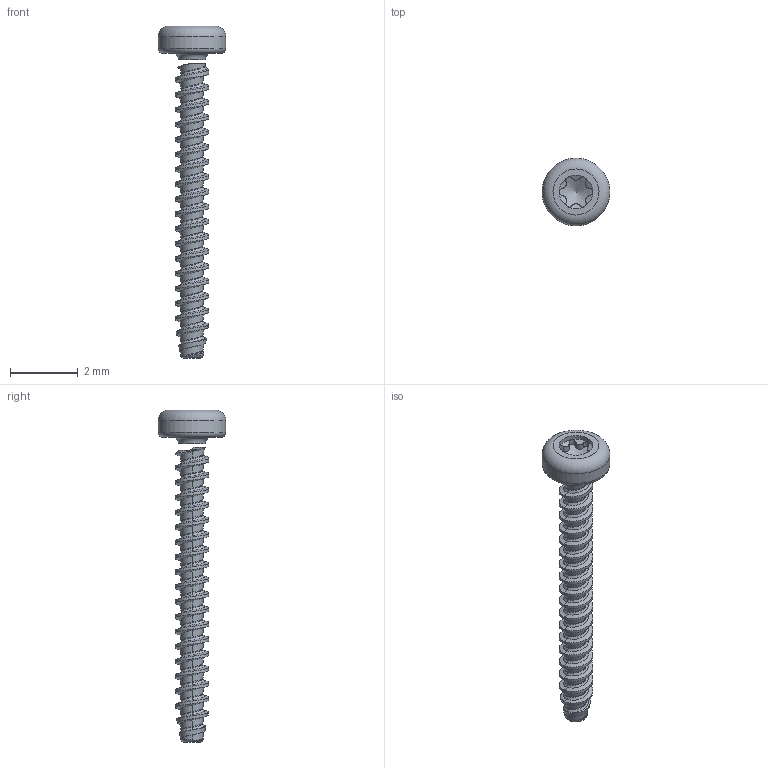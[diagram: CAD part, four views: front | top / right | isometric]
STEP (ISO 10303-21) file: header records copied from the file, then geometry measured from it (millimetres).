
FILE_DESCRIPTION(/* description */ (''),/* implementation_level */ '2;1');
FILE_NAME(/* name */ 'KN6039-STSplus-10x9-T2.step',/* time_stamp */ '2017-10-11T10:34:57+02:00',/* author */ (''),/* organization */ (''),/* preprocessor_version */ 'ST-DEVELOPER v16',/* originating_system */ 'SIEMENS PLM Software NX 10.0',/* authorisation */ '');
FILE_SCHEMA (('AUTOMOTIVE_DESIGN { 1 0 10303 214 3 1 1 1 }'));
Length unit declared in the file: millimetre
Products named in the file (1): KN6039-STSplus-10x9-T2
Bounding box: 2 x 2 x 9.8 mm (x, y, z)
Volume: 6.2 mm3; surface area: 43.3 mm2
Topology: 1 solids, 1 shells, 118 faces, 297 edges, 180 vertices
Faces by surface type: bspline 83, cylinder 18, cone 9, torus 4, plane 4
Full cylindrical faces by diameter (mm): 0.79 x2, 1 x1, 2 x1
Entity records: 8881 total; most frequent: CARTESIAN_POINT 6721, ORIENTED_EDGE 562, EDGE_CURVE 281, DIRECTION 199, VERTEX_POINT 176, B_SPLINE_CURVE_WITH_KNOTS 171, EDGE_LOOP 126, ADVANCED_FACE 117
